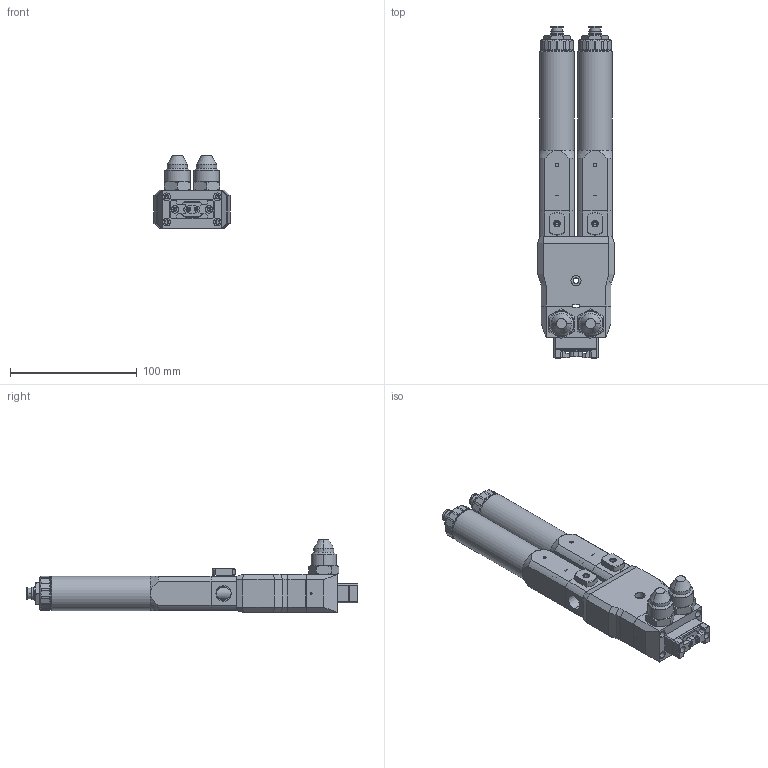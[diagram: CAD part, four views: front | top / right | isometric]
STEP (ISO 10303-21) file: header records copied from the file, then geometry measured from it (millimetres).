
FILE_DESCRIPTION (( 'STEP AP214' ), '1' );
FILE_NAME ('PDP-050-015KB.STEP', '2025-01-30T15:23:17', ( '' ), ( '' ), 'SwSTEP 2.0', 'SolidWorks 2024', '' );
FILE_SCHEMA (( 'AUTOMOTIVE_DESIGN' ));
Length unit declared in the file: millimetre
Products named in the file (1): PDP-050-015KB
Bounding box: 60 x 262 x 57.5 mm (x, y, z)
Volume: 342390.9 mm3; surface area: 89730.4 mm2
Topology: 13 solids, 13 shells, 1455 faces, 3654 edges, 2298 vertices
Faces by surface type: cylinder 582, plane 511, cone 332, bspline 24, torus 6
Full cylindrical faces by diameter (mm): 27 x2
Entity records: 57108 total; most frequent: CARTESIAN_POINT 22763, ORIENTED_EDGE 7200, DIRECTION 7135, EDGE_CURVE 3600, AXIS2_PLACEMENT_3D 2773, VERTEX_POINT 2298, EDGE_LOOP 1630, LINE 1589
